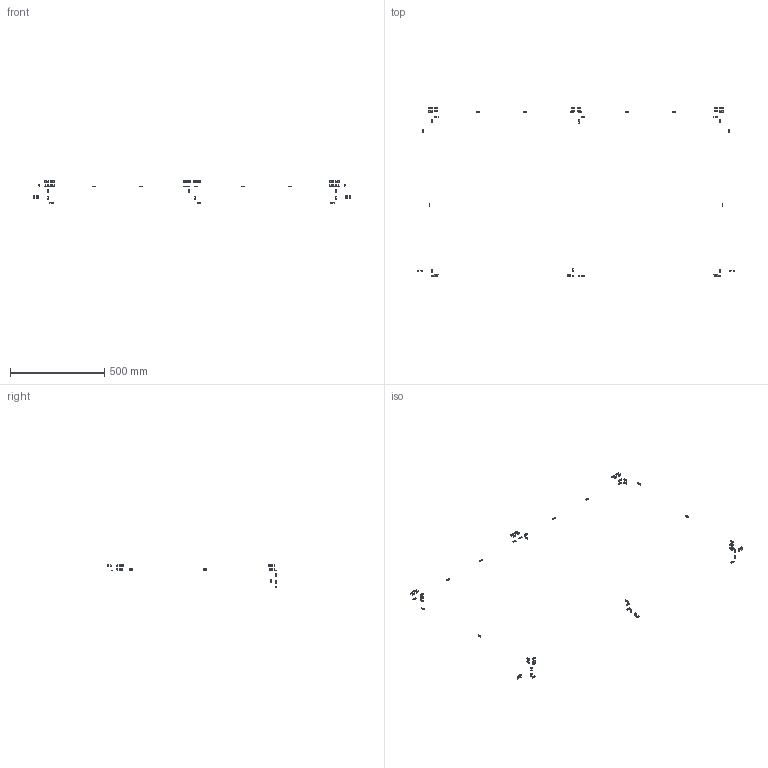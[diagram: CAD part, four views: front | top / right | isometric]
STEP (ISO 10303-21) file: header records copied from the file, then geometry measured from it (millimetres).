
FILE_DESCRIPTION(/* description */ (''),/* implementation_level */ '2;1');
FILE_NAME(/* name */ 'FRC3C7~1',/* time_stamp */ '2014-02-14T19:36:18+01:00',/* author */ (''),/* organization */ (''),/* preprocessor_version */ 'ST-DEVELOPER v14',/* originating_system */ '',/* authorisation */ '');
FILE_SCHEMA (('AUTOMOTIVE_DESIGN'));
Length unit declared in the file: millimetre
Products named in the file (2): Document; nut tslot, post, M5
Assembly tree (34 placements, depth 2):
  Document
    nut tslot, post, M5  x34
Bounding box: 1688.3 x 899.32 x 119.38 mm (x, y, z)
Volume: 18901 mm3; surface area: 25171.1 mm2
Topology: 60 solids, 60 shells, 780 faces, 2160 edges, 1440 vertices
Faces by surface type: plane 660, bspline 120
Entity records: 26017 total; most frequent: CARTESIAN_POINT 12349, B_SPLINE_CURVE_WITH_KNOTS 2700, ORIENTED_EDGE 1944, PCURVE 1944, DEFINITIONAL_REPRESENTATION 1944, SURFACE_CURVE 972, EDGE_CURVE 972, VERTEX_POINT 648
